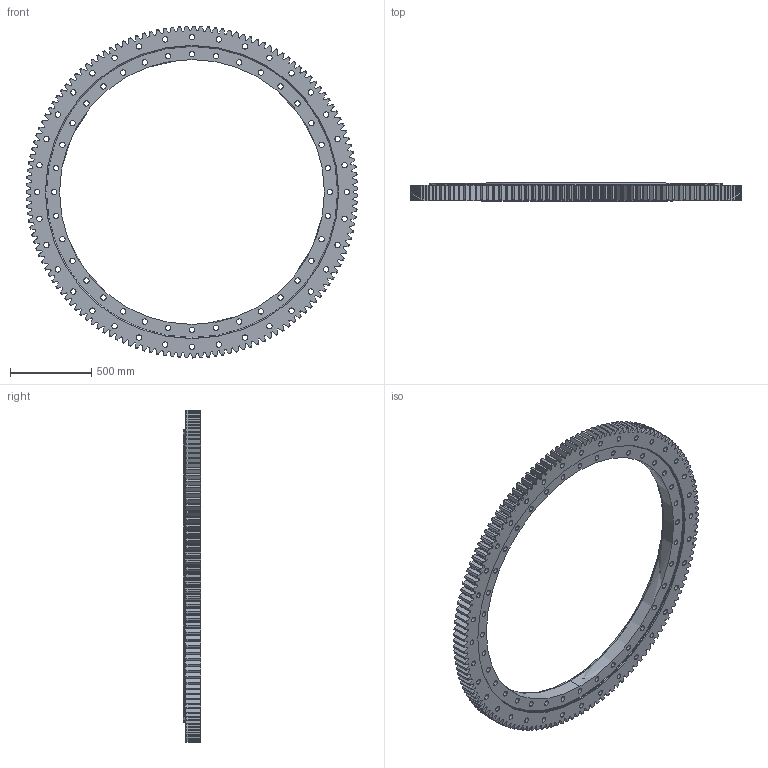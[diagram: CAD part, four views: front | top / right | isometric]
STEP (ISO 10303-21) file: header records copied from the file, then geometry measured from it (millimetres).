
FILE_DESCRIPTION (( 'STEP AP214' ), '1' );
FILE_NAME ('SM2136-2-2041AA.STEP', '2022-11-29T06:47:37', ( '' ), ( '' ), 'SwSTEP 2.0', 'SolidWorks 2020', '' );
FILE_SCHEMA (( 'AUTOMOTIVE_DESIGN' ));
Length unit declared in the file: millimetre
Products named in the file (1): SM2136-2-2041AA
Bounding box: 2041.07 x 108 x 2041.17 mm (x, y, z)
Volume: 97715461.7 mm3; surface area: 5999161.6 mm2
Topology: 4 solids, 4 shells, 1216 faces, 3599 edges, 2402 vertices
Faces by surface type: cylinder 331, plane 305, cone 294, bspline 286
Entity records: 42776 total; most frequent: CARTESIAN_POINT 12120, ORIENTED_EDGE 7198, DIRECTION 5217, EDGE_CURVE 3599, VERTEX_POINT 2402, AXIS2_PLACEMENT_3D 1867, VECTOR 1483, LINE 1483
